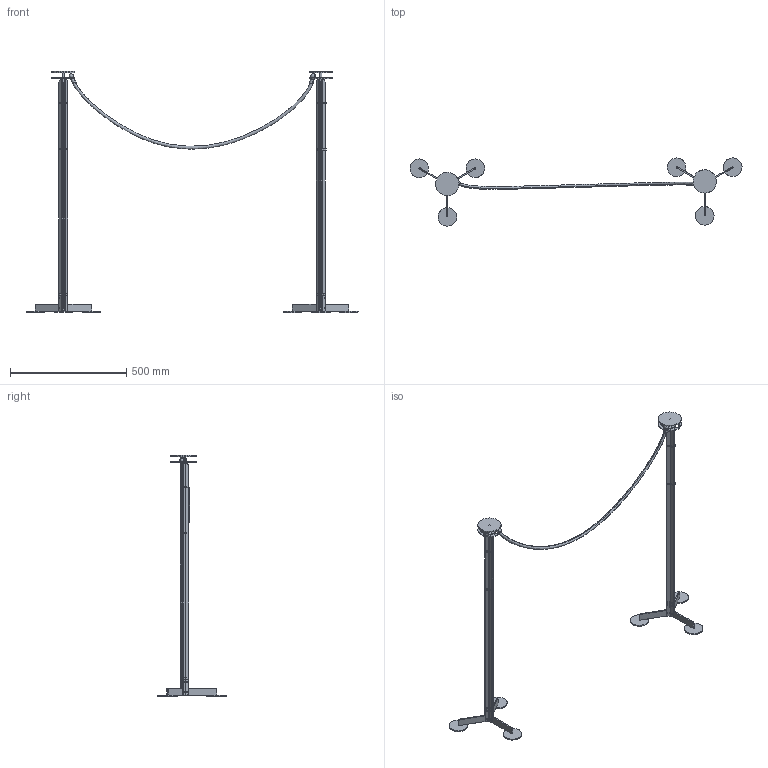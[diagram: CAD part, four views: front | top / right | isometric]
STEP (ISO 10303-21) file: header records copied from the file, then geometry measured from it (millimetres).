
FILE_DESCRIPTION(/* description */ (''),/* implementation_level */ '2;1');
FILE_NAME(/* name */ 'Familia transenna',/* time_stamp */ '2025-07-14T15:39:45+02:00',/* author */ (''),/* organization */ (''),/* preprocessor_version */ 'ST-DEVELOPER v16.5',/* originating_system */ 'Rhino 7.37',/* authorisation */ '');
FILE_SCHEMA (('AUTOMOTIVE_DESIGN'));
Length unit declared in the file: millimetre
Products named in the file (17): Document; InstanceDefinition 03; InstanceDefinition 02; InstanceDefinition 01; InstanceDefinition 16; InstanceDefinition 07; InstanceDefinition 08; InstanceDefinition 09; InstanceDefinition 10; InstanceDefinition 11; InstanceDefinition 14; InstanceDefinition 04; InstanceDefinition 05; InstanceDefinition 06; InstanceDefinition 13; InstanceDefinition 15; InstanceDefinition 12
Assembly tree (33 placements, depth 3):
  Document
    InstanceDefinition 03  x2
    InstanceDefinition 02  x4
    InstanceDefinition 01  x6
    InstanceDefinition 16  x2
      InstanceDefinition 07
      InstanceDefinition 08
      InstanceDefinition 09
      InstanceDefinition 10
      InstanceDefinition 11
    InstanceDefinition 14  x2
      InstanceDefinition 04
      InstanceDefinition 05
      InstanceDefinition 06
    InstanceDefinition 13
    InstanceDefinition 15
      InstanceDefinition 12
      InstanceDefinition 13
Bounding box: 1429.83 x 293.58 x 1038.52 mm (x, y, z)
Volume: 717452.3 mm3; surface area: 672255.7 mm2
Topology: 42 solids, 43 shells, 902 faces, 2442 edges, 1621 vertices
Faces by surface type: plane 668, cylinder 216, bspline 18
Entity records: 9493 total; most frequent: CARTESIAN_POINT 3885, ORIENTED_EDGE 1434, EDGE_CURVE 719, B_SPLINE_CURVE_WITH_KNOTS 541, VERTEX_POINT 475, DIRECTION 390, AXIS2_PLACEMENT_3D 324, EDGE_LOOP 308
